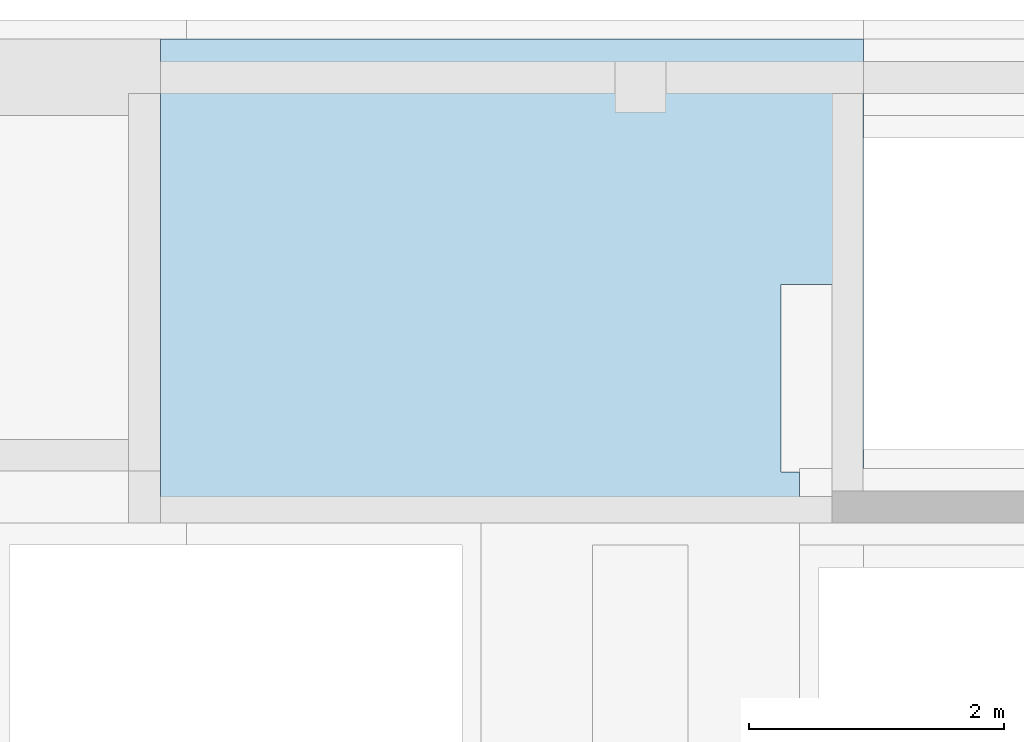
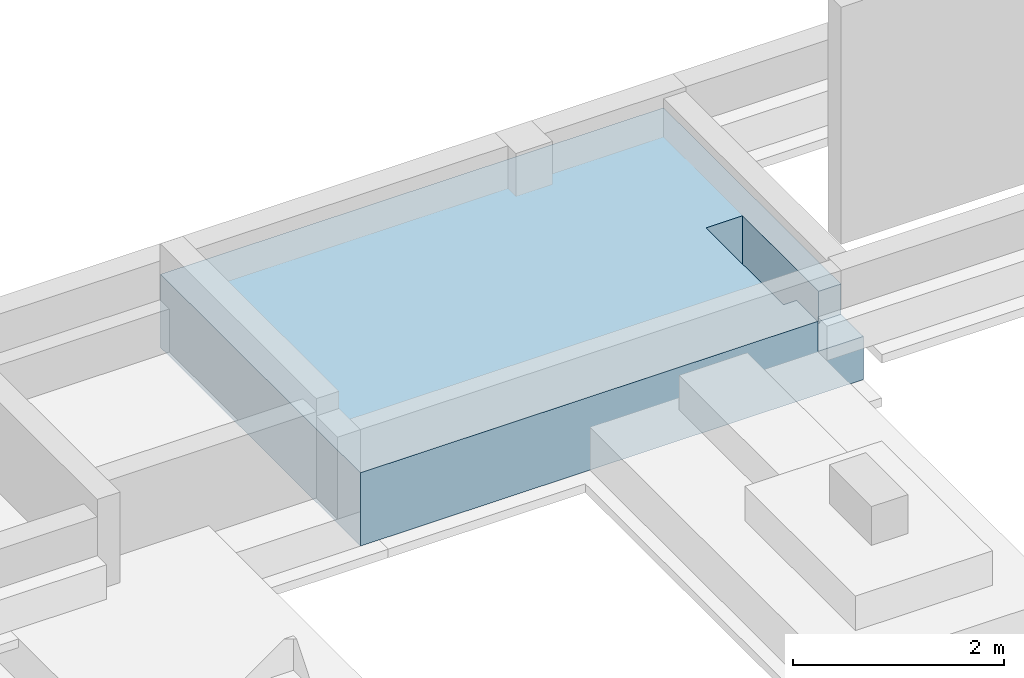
# One storey, part 6 of 6: 1 slab.
"""IFC2X3 building model written with IfcOpenShell, lengths in centimetres."""

from ifc_helpers import new_model, entity, si_unit, converted_unit, derived_unit, direction, frame, origin, place, context, subcontext, project, spatial, faceted_brep, material, type_object, element, save


model = new_model("IFC2X3")

# Units and contexts
model_context = context("Model", 3, precision=0.001, world=origin(), true_north=direction((6.12303176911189e-17, 1.0)))
body_context = subcontext(model_context, "Body", "Model", "MODEL_VIEW")
ifc_project = project(units=[si_unit("LENGTHUNIT", "METRE", prefix="CENTI"), si_unit("AREAUNIT", "SQUARE_METRE"), si_unit("VOLUMEUNIT", "CUBIC_METRE"), converted_unit("PLANEANGLEUNIT", "DEGREE", entity("IfcRatioMeasure", 0.0174532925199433), si_unit("PLANEANGLEUNIT", "RADIAN"), dimensions=[0, 0, 0, 0, 0, 0, 0]), si_unit("MASSUNIT", "GRAM", prefix="KILO"), derived_unit("MASSDENSITYUNIT", [(si_unit("MASSUNIT", "GRAM", prefix="KILO"), 1), (si_unit("LENGTHUNIT", "METRE"), -3)]), derived_unit("MOMENTOFINERTIAUNIT", [(si_unit("LENGTHUNIT", "METRE"), 4)]), si_unit("TIMEUNIT", "SECOND"), si_unit("FREQUENCYUNIT", "HERTZ"), si_unit("THERMODYNAMICTEMPERATUREUNIT", "DEGREE_CELSIUS"), derived_unit("THERMALTRANSMITTANCEUNIT", [(si_unit("MASSUNIT", "GRAM", prefix="KILO"), 1), (si_unit("THERMODYNAMICTEMPERATUREUNIT", "KELVIN"), -1), (si_unit("TIMEUNIT", "SECOND"), -3)]), derived_unit("VOLUMETRICFLOWRATEUNIT", [(si_unit("LENGTHUNIT", "METRE"), 3), (si_unit("TIMEUNIT", "SECOND"), -1)]), si_unit("ELECTRICCURRENTUNIT", "AMPERE"), si_unit("ELECTRICVOLTAGEUNIT", "VOLT"), si_unit("POWERUNIT", "WATT"), si_unit("FORCEUNIT", "NEWTON", prefix="KILO"), si_unit("ILLUMINANCEUNIT", "LUX"), si_unit("LUMINOUSFLUXUNIT", "LUMEN"), si_unit("LUMINOUSINTENSITYUNIT", "CANDELA"), derived_unit("USERDEFINED", [(si_unit("MASSUNIT", "GRAM", prefix="KILO"), -1), (si_unit("LENGTHUNIT", "METRE"), -2), (si_unit("TIMEUNIT", "SECOND"), 3), (si_unit("LUMINOUSFLUXUNIT", "LUMEN"), 1)]), derived_unit("LINEARVELOCITYUNIT", [(si_unit("LENGTHUNIT", "METRE"), 1), (si_unit("TIMEUNIT", "SECOND"), -1)]), si_unit("PRESSUREUNIT", "PASCAL"), derived_unit("USERDEFINED", [(si_unit("LENGTHUNIT", "METRE"), -2), (si_unit("MASSUNIT", "GRAM", prefix="KILO"), 1), (si_unit("TIMEUNIT", "SECOND"), -2)]), derived_unit("LINEARFORCEUNIT", [(si_unit("MASSUNIT", "GRAM", prefix="KILO"), 1), (si_unit("LENGTHUNIT", "METRE"), 1), (si_unit("TIMEUNIT", "SECOND"), -2), (si_unit("LENGTHUNIT", "METRE"), -1)]), derived_unit("PLANARFORCEUNIT", [(si_unit("MASSUNIT", "GRAM", prefix="KILO"), 1), (si_unit("LENGTHUNIT", "METRE"), 1), (si_unit("TIMEUNIT", "SECOND"), -2), (si_unit("LENGTHUNIT", "METRE"), -2)])], contexts=[model_context])

# Site, building, storey
site_placement = place(None, origin())
site = spatial("IfcSite", under=ifc_project, at=site_placement, Name="Default", CompositionType="ELEMENT")
building_placement = place(site_placement, origin())
building = spatial("IfcBuilding", under=site, at=building_placement, CompositionType="ELEMENT")
storey_placement = place(building_placement, frame((0.0, 0.0, -115.0)))
storey = spatial("IfcBuildingStorey", under=building, at=storey_placement, Name="Poziom Fundament -1,15", CompositionType="ELEMENT", Elevation=-115.0)

# Slab
ifc_material = material(Name="_Beton, C25/30")
slab_type = type_object("IfcSlabType", Name="Strop:Płyta fundamentowa gr. 85cm", PredefinedType="FLOOR")
slab_placement = place(storey_placement, origin())
element("IfcSlab", 1, at=slab_placement, inside=storey, type_object=slab_type, material=ifc_material, Name="Strop:Płyta fundamentowa gr. 85cm", ObjectType="Strop:Płyta fundamentowa gr. 85cm", PredefinedType="FLOOR", context=body_context, shape_type="Brep", body=[
    faceted_brep([(-65.7649889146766, 1743.12745221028, -50.0), (-65.764988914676, 2122.6274502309, -50.0), (485.735423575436, 2122.6274502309, -50.0), (485.735423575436, 1743.12745221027, -50.0), (421.234855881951, 1930.12745228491, -50.0), (421.234855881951, 1783.12745228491, -50.0), (461.234878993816, 1783.12745228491, -50.0), (461.234878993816, 1930.12745228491, -50.0), (-65.764988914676, 2122.6274502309, 35.0), (-65.7649889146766, 1743.12745221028, 35.0), (435.735002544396, 1743.12745221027, 35.0), (435.735002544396, 1783.12745228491, 35.0), (421.234855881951, 1783.12745228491, 35.0), (421.234855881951, 1930.12745228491, 35.0), (461.234878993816, 1930.12745228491, 35.0), (461.234878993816, 1785.62745455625, 35.0), (485.735423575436, 1785.62745455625, 35.0), (485.735423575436, 2122.6274502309, 35.0), (485.735423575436, 1785.62745455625, 0.0), (485.735423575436, 1743.12745221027, 0.0), (435.735002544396, 1743.12745221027, 0.0), (461.234878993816, 1785.62745455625, 0.0), (461.234878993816, 1783.12745228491, 0.0), (435.735002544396, 1783.12745228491, 0.0)], [[[0, 1, 2, 3], [4, 5, 6, 7]], [[8, 9, 10, 11, 12, 13, 14, 15, 16, 17]], [[1, 0, 9, 8]], [[2, 1, 8, 17]], [[3, 2, 17, 16, 18, 19]], [[0, 3, 19, 20, 10, 9]], [[18, 21, 22, 23, 20, 19]], [[20, 23, 11, 10]], [[21, 18, 16, 15]], [[5, 4, 13, 12]], [[6, 5, 12, 11, 23, 22]], [[7, 6, 22, 21, 15, 14]], [[4, 7, 14, 13]]]),
])

save(model, "model.ifc")
